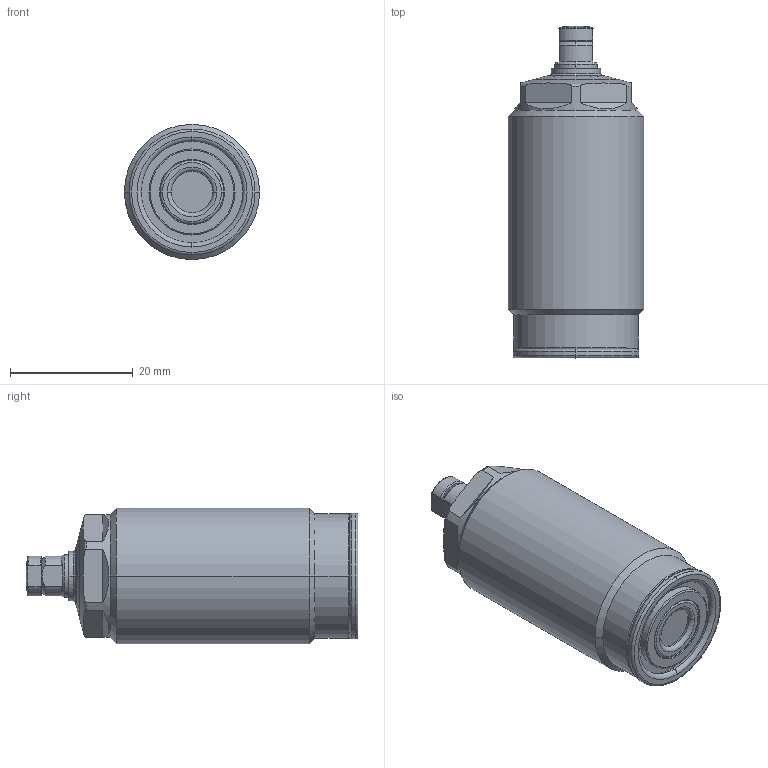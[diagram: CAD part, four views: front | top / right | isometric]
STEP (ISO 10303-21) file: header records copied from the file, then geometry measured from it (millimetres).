
FILE_DESCRIPTION(/* description */ (''),/* implementation_level */ '2;1');
FILE_NAME(/* name */ 'TNL22.stp',/* time_stamp */ '2022-11-17T13:18:27+08:00',/* author */ (''),/* organization */ (''),/* preprocessor_version */ 'ST-DEVELOPER v16.7',/* originating_system */ 'SIEMENS PLM Software NX 12.0',/* authorisation */ '');
FILE_SCHEMA (('AP203_CONFIGURATION_CONTROLLED_3D_DESIGN_OF_MECHANICAL_PARTS_AND_ASSEMBLIES_MIM_LF { 1 0 10303 403 2 1 2}'));
Length unit declared in the file: millimetre
Products named in the file (7): XLD-M4_Oring; XLD-M4_contactbolt; TNL22-01; TNL22-04; TNL22-02; TNL22-03; WNC0353-x_step
Assembly tree (6 placements, depth 3):
  WNC0353-x_step
    TNL22-02
    TNL22-04
    TNL22-03
      XLD-M4_contactbolt
      XLD-M4_Oring
    TNL22-01
Bounding box: 22 x 54 x 22 mm (x, y, z)
Volume: 16357.6 mm3; surface area: 4848.1 mm2
Topology: 5 solids, 5 shells, 153 faces, 337 edges, 203 vertices
Faces by surface type: torus 50, cylinder 43, plane 36, cone 22, sphere 2
Entity records: 5349 total; most frequent: CARTESIAN_POINT 1102, DIRECTION 819, ORIENTED_EDGE 674, AXIS2_PLACEMENT_3D 364, EDGE_CURVE 337, CIRCLE 204, VERTEX_POINT 203, EDGE_LOOP 168
